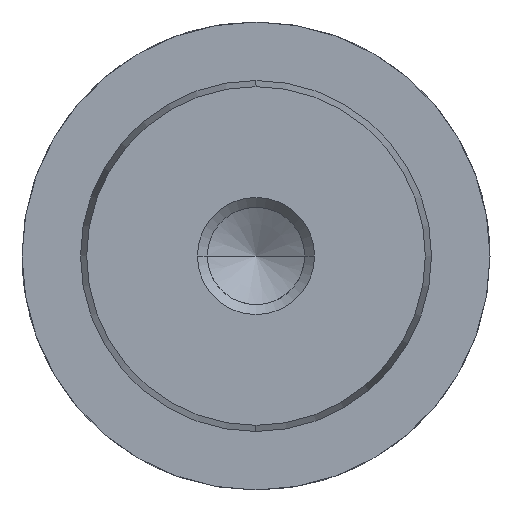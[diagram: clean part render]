
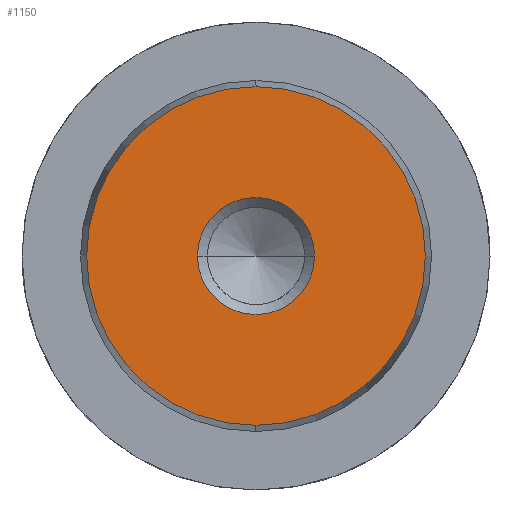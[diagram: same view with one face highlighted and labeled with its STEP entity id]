
A CAD part, left-side view. The second image highlights one B-rep face of the part: STEP entity #1150.
In plain terms, the highlighted planar face has unit normal (-1, 0, 0).
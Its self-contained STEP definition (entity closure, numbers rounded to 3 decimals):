
#1064=CARTESIAN_POINT('Vertex',(0.,0.,-11.578)) ;
#1067=CARTESIAN_POINT('Axis2P3D Location',(0.,0.,0.)) ;
#1071=CARTESIAN_POINT('Vertex',(0.,11.578,0.)) ;
#1074=CARTESIAN_POINT('Axis2P3D Location',(0.,0.,0.)) ;
#1078=CARTESIAN_POINT('Vertex',(0.,0.,11.578)) ;
#1100=CARTESIAN_POINT('Axis2P3D Location',(0.,0.,0.)) ;
#1104=CARTESIAN_POINT('Vertex',(0.,-11.578,0.)) ;
#1107=CARTESIAN_POINT('Axis2P3D Location',(0.,0.,0.)) ;
#1121=CARTESIAN_POINT('Axis2P3D Location',(0.,0.,0.)) ;
#1132=CARTESIAN_POINT('Axis2P3D Location',(0.,0.,0.)) ;
#1136=CARTESIAN_POINT('Vertex',(0.,4.,0.)) ;
#1138=CARTESIAN_POINT('Vertex',(0.,-4.,0.)) ;
#1141=CARTESIAN_POINT('Axis2P3D Location',(0.,0.,0.)) ;
#1068=DIRECTION('Axis2P3D Direction',(1.,0.,-0.)) ;
#1075=DIRECTION('Axis2P3D Direction',(1.,0.,-0.)) ;
#1101=DIRECTION('Axis2P3D Direction',(1.,0.,-0.)) ;
#1108=DIRECTION('Axis2P3D Direction',(1.,0.,-0.)) ;
#1122=DIRECTION('Axis2P3D Direction',(1.,0.,-0.)) ;
#1123=DIRECTION('Axis2P3D XDirection',(-0.,0.,-1.)) ;
#1133=DIRECTION('Axis2P3D Direction',(1.,0.,-0.)) ;
#1142=DIRECTION('Axis2P3D Direction',(1.,0.,-0.)) ;
#1069=AXIS2_PLACEMENT_3D('Circle Axis2P3D',#1067,#1068,$) ;
#1076=AXIS2_PLACEMENT_3D('Circle Axis2P3D',#1074,#1075,$) ;
#1102=AXIS2_PLACEMENT_3D('Circle Axis2P3D',#1100,#1101,$) ;
#1109=AXIS2_PLACEMENT_3D('Circle Axis2P3D',#1107,#1108,$) ;
#1124=AXIS2_PLACEMENT_3D('Plane Axis2P3D',#1121,#1122,#1123) ;
#1134=AXIS2_PLACEMENT_3D('Circle Axis2P3D',#1132,#1133,$) ;
#1143=AXIS2_PLACEMENT_3D('Circle Axis2P3D',#1141,#1142,$) ;
#1127=ORIENTED_EDGE('',*,*,#1073,.F.) ;
#1128=ORIENTED_EDGE('',*,*,#1111,.F.) ;
#1129=ORIENTED_EDGE('',*,*,#1106,.F.) ;
#1130=ORIENTED_EDGE('',*,*,#1080,.F.) ;
#1147=ORIENTED_EDGE('',*,*,#1140,.T.) ;
#1148=ORIENTED_EDGE('',*,*,#1145,.T.) ;
#1149=FACE_BOUND('',#1146,.T.) ;
#1150=ADVANCED_FACE('718-24x160',(#1131,#1149),#1125,.F.) ;
#1070=CIRCLE('generated circle',#1069,11.578) ;
#1077=CIRCLE('generated circle',#1076,11.578) ;
#1103=CIRCLE('generated circle',#1102,11.578) ;
#1110=CIRCLE('generated circle',#1109,11.578) ;
#1135=CIRCLE('generated circle',#1134,4.) ;
#1144=CIRCLE('generated circle',#1143,4.) ;
#1073=EDGE_CURVE('',#1065,#1072,#1070,.T.) ;
#1080=EDGE_CURVE('',#1072,#1079,#1077,.T.) ;
#1106=EDGE_CURVE('',#1079,#1105,#1103,.T.) ;
#1111=EDGE_CURVE('',#1105,#1065,#1110,.T.) ;
#1140=EDGE_CURVE('',#1137,#1139,#1135,.T.) ;
#1145=EDGE_CURVE('',#1139,#1137,#1144,.T.) ;
#1126=EDGE_LOOP('',(#1127,#1128,#1129,#1130)) ;
#1146=EDGE_LOOP('',(#1147,#1148)) ;
#1131=FACE_OUTER_BOUND('',#1126,.T.) ;
#1125=PLANE('Plane',#1124) ;
#1065=VERTEX_POINT('',#1064) ;
#1072=VERTEX_POINT('',#1071) ;
#1079=VERTEX_POINT('',#1078) ;
#1105=VERTEX_POINT('',#1104) ;
#1137=VERTEX_POINT('',#1136) ;
#1139=VERTEX_POINT('',#1138) ;
